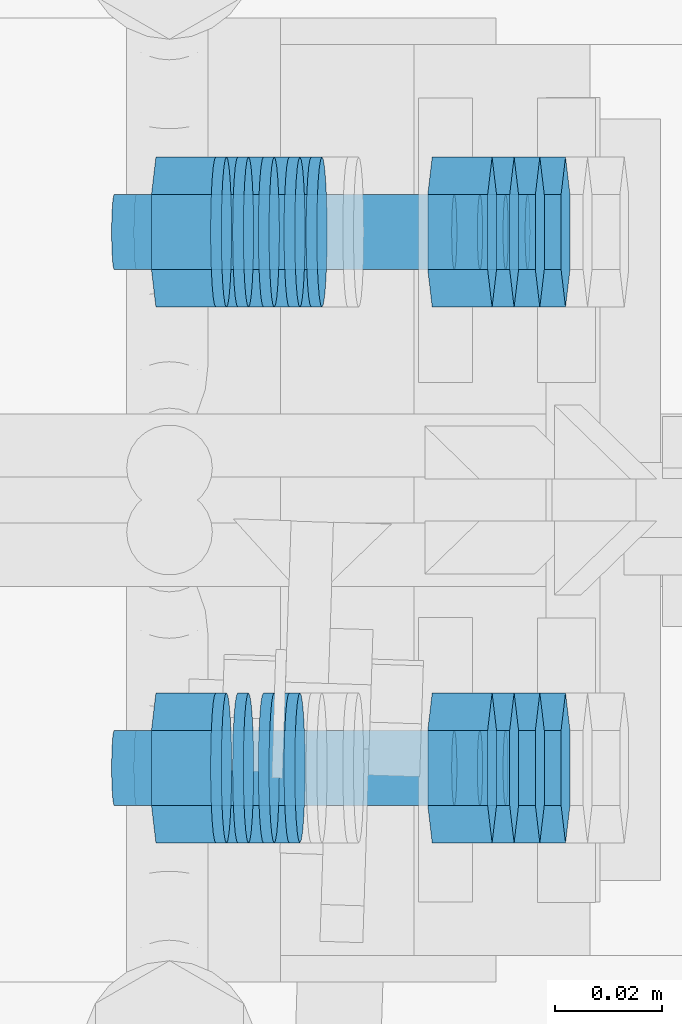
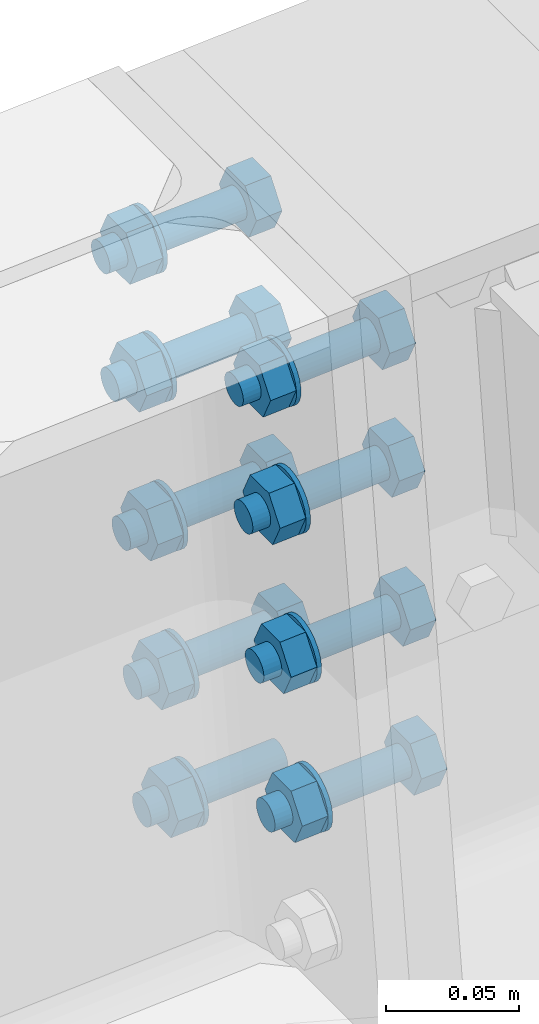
# One storey, part 67 of 72: 35 mechanical fasteners.
"""IFC4 building model written with IfcOpenShell, lengths in metres."""

from ifc_helpers import new_model, si_unit, frame, origin_with_axes, place, context, project, spatial, polyline, outline, extrude, type_object, element, save


model = new_model("IFC4")

# Units and contexts
model_context = context("Model", 3, precision=1e-05, world=origin_with_axes())
ifc_project = project(units=[si_unit("LENGTHUNIT", "METRE"), si_unit("AREAUNIT", "SQUARE_METRE"), si_unit("VOLUMEUNIT", "CUBIC_METRE"), si_unit("MASSUNIT", "GRAM", prefix="KILO"), si_unit("TIMEUNIT", "SECOND"), si_unit("PLANEANGLEUNIT", "RADIAN"), si_unit("SOLIDANGLEUNIT", "STERADIAN"), si_unit("THERMODYNAMICTEMPERATUREUNIT", "DEGREE_CELSIUS")], contexts=[model_context])

# Site, building, storey
placement_1 = place(None, origin_with_axes())
site = spatial("IfcSite", under=ifc_project, at=placement_1, Name="Italia", CompositionType="ELEMENT")
building = spatial("IfcBuilding", under=site, at=placement_1, Name="Pensilina", CompositionType="ELEMENT")
storey = spatial("IfcBuildingStorey", under=building, at=placement_1, Name="Storey 0", CompositionType="ELEMENT", Elevation=0.0)

# Mechanical fasteners
mechanical_fastener_type_1 = type_object("IfcMechanicalFastenerType", Name="Collegamento 0105_0205", PredefinedType="BOLT")
placement_2 = place(placement_1, origin_with_axes())
mechanical_fastener_1_placement = place(placement_2, origin_with_axes())
element("IfcMechanicalFastener", 1, at=mechanical_fastener_1_placement, inside=storey, type_object=mechanical_fastener_type_1, Name="Collegamento 0105_0205", NominalDiameter=0.014, context=model_context, shape_type="SweptSolid", body=[
    extrude(outline(polyline([(0.0, 0.0, 0.0), (-0.000238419, -0.00181174, 0.0), (-0.000938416, -0.00350022, 0.0), (-0.0020504, -0.00494981, 0.0), (-0.00349998, -0.00606227, 0.0), (-0.00518799, -0.00676155, 0.0), (-0.00699997, -0.00699997, 0.0), (-0.00881195, -0.00676155, 0.0), (-0.0105, -0.00606227, 0.0), (-0.0119495, -0.00494981, 0.0), (-0.0130615, -0.00350022, 0.0), (-0.0137615, -0.00181174, 0.0), (-0.0139999, 0.0, 0.0), (-0.0137615, 0.00181174, 0.0), (-0.0130615, 0.00349998, 0.0), (-0.0119495, 0.00494981, 0.0), (-0.0105, 0.00606227, 0.0), (-0.00881195, 0.00676155, 0.0), (-0.00699997, 0.00699997, 0.0), (-0.00518799, 0.00676155, 0.0), (-0.00349998, 0.00606227, 0.0), (-0.0020504, 0.00494981, 0.0), (-0.000938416, 0.00349998, 0.0), (-0.000238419, 0.00181174, 0.0), (0.0, 0.0, 0.0)])), frame((0.863551, 21.177, 3.51536), z_axis=(0.997648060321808, 0.0, 0.068544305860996), x_axis=(0.0, 1.0, 0.0)), (0.0, 0.0, 1.0), 0.0595),
])
mechanical_fastener_type_2 = type_object("IfcMechanicalFastenerType", Name="Collegamento 0105_0205", PredefinedType="BOLT")
mechanical_fastener_2_placement = place(placement_2, origin_with_axes())
element("IfcMechanicalFastener", 2, at=mechanical_fastener_2_placement, inside=storey, type_object=mechanical_fastener_type_2, Name="Collegamento 0105_0205", NominalDiameter=0.0139999, context=model_context, shape_type="SweptSolid", body=[
    extrude(outline(polyline([(0.0, 0.0, 0.0), (-0.0139999, 0.0, 0.0), (-0.0209999, 0.0121245, 0.0), (-0.0139999, 0.0242488, 0.0), (0.0, 0.0242488, 0.0), (0.00699997, 0.0121245, 0.0), (0.0, 0.0, 0.0)])), frame((0.872163, 21.177, 3.5038), z_axis=(0.997648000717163, 0.0, 0.068545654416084), x_axis=(0.0, 1.0, 0.0)), (0.0, 0.0, 1.0), 0.0111999),
])
mechanical_fastener_type_3 = type_object("IfcMechanicalFastenerType", Name="Collegamento 0105_0205", PredefinedType="BOLT")
mechanical_fastener_3_placement = place(placement_2, origin_with_axes())
element("IfcMechanicalFastener", 3, at=mechanical_fastener_3_placement, inside=storey, type_object=mechanical_fastener_type_3, Name="Collegamento 0105_0205", NominalDiameter=0.028, context=model_context, shape_type="SweptSolid", body=[
    extrude(outline(polyline([(0.0, 0.0, 0.0), (-0.000476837, -0.00362349, 0.0), (-0.00187492, -0.00699997, 0.0), (-0.0041008, -0.00989938, 0.0), (-0.00699997, -0.0121243, 0.0), (-0.010376, -0.0135229, 0.0), (-0.0139999, -0.0139999, 0.0), (-0.0176239, -0.0135229, 0.0), (-0.0209999, -0.0121243, 0.0), (-0.0238991, -0.00989938, 0.0), (-0.026125, -0.00699997, 0.0), (-0.027523, -0.00362349, 0.0), (-0.0279999, 0.0, 0.0), (-0.027523, 0.00362349, 0.0), (-0.026125, 0.00699997, 0.0), (-0.0238991, 0.00989962, 0.0), (-0.0209999, 0.0121245, 0.0), (-0.0176239, 0.0135231, 0.0), (-0.0139999, 0.0139999, 0.0), (-0.010376, 0.0135231, 0.0), (-0.00699997, 0.0121245, 0.0), (-0.0041008, 0.00989962, 0.0), (-0.00187492, 0.00699997, 0.0), (-0.000476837, 0.00362349, 0.0), (0.0, 0.0, 0.0)])), frame((0.882506, 21.184, 3.51666), z_axis=(0.997648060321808, 0.0, 0.06854435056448), x_axis=(0.0, 1.0, 0.0)), (0.0, 0.0, 1.0), 0.00200003),
])
mechanical_fastener_type_4 = type_object("IfcMechanicalFastenerType", Name="Collegamento 0105_0205", PredefinedType="BOLT")
mechanical_fastener_4_placement = place(placement_2, origin_with_axes())
element("IfcMechanicalFastener", 4, at=mechanical_fastener_4_placement, inside=storey, type_object=mechanical_fastener_type_4, Name="Collegamento 0105_0205", NominalDiameter=0.0139999, context=model_context, shape_type="SweptSolid", body=[
    extrude(outline(polyline([(0.0, 0.0, 0.0), (-0.0139999, 0.0, 0.0), (-0.0209999, 0.0121243, 0.0), (-0.0139999, 0.0242488, 0.0), (0.0, 0.0242488, 0.0), (0.00699997, 0.0121243, 0.0), (0.0, 0.0, 0.0)])), frame((0.919629, 21.077, 3.5672), z_axis=(0.997649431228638, 0.0, 0.068524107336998), x_axis=(0.0, 1.0, 0.0)), (0.0, 0.0, 1.0), 0.0112),
])
mechanical_fastener_type_5 = type_object("IfcMechanicalFastenerType", Name="Collegamento 0105_0205", PredefinedType="BOLT")
mechanical_fastener_5_placement = place(placement_2, origin_with_axes())
element("IfcMechanicalFastener", 5, at=mechanical_fastener_5_placement, inside=storey, type_object=mechanical_fastener_type_5, Name="Collegamento 0105_0205", NominalDiameter=0.014, context=model_context, shape_type="SweptSolid", body=[
    extrude(outline(polyline([(0.0, 0.0, 0.0), (-0.000238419, -0.00181174, 0.0), (-0.000938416, -0.00349998, 0.0), (-0.0020504, -0.00494981, 0.0), (-0.00349998, -0.00606227, 0.0), (-0.00518799, -0.00676155, 0.0), (-0.00699997, -0.00699997, 0.0), (-0.00881195, -0.00676155, 0.0), (-0.0105, -0.00606227, 0.0), (-0.0119495, -0.00494981, 0.0), (-0.0130615, -0.00349998, 0.0), (-0.0137615, -0.00181174, 0.0), (-0.0139999, 0.0, 0.0), (-0.0137615, 0.00181174, 0.0), (-0.0130615, 0.00350022, 0.0), (-0.0119495, 0.00494981, 0.0), (-0.0105, 0.00606227, 0.0), (-0.00881195, 0.00676155, 0.0), (-0.00699997, 0.00699997, 0.0), (-0.00518799, 0.00676155, 0.0), (-0.00349998, 0.00606227, 0.0), (-0.0020504, 0.00494981, 0.0), (-0.000938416, 0.00350022, 0.0), (-0.000238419, 0.00181174, 0.0), (0.0, 0.0, 0.0)])), frame((0.859438, 21.077, 3.57522), z_axis=(0.997648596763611, 0.0, 0.068536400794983), x_axis=(0.0, 1.0, 0.0)), (0.0, 0.0, 1.0), 0.0594999),
])
mechanical_fastener_type_6 = type_object("IfcMechanicalFastenerType", Name="Collegamento 0105_0205", PredefinedType="BOLT")
mechanical_fastener_6_placement = place(placement_2, origin_with_axes())
element("IfcMechanicalFastener", 6, at=mechanical_fastener_6_placement, inside=storey, type_object=mechanical_fastener_type_6, Name="Collegamento 0105_0205", NominalDiameter=0.0139999, context=model_context, shape_type="SweptSolid", body=[
    extrude(outline(polyline([(0.0, 0.0, 0.0), (-0.0139999, 0.0, 0.0), (-0.0209999, 0.0121243, 0.0), (-0.0139999, 0.0242486, 0.0), (0.0, 0.0242486, 0.0), (0.00699997, 0.0121243, 0.0), (0.0, 0.0, 0.0)])), frame((0.868051, 21.077, 3.56365), z_axis=(0.997648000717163, 0.0, 0.068545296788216), x_axis=(0.0, 1.0, 0.0)), (0.0, 0.0, 1.0), 0.0112),
])
mechanical_fastener_type_7 = type_object("IfcMechanicalFastenerType", Name="Collegamento 0105_0205", PredefinedType="BOLT")
mechanical_fastener_7_placement = place(placement_2, origin_with_axes())
element("IfcMechanicalFastener", 7, at=mechanical_fastener_7_placement, inside=storey, type_object=mechanical_fastener_type_7, Name="Collegamento 0105_0205", NominalDiameter=0.028, context=model_context, shape_type="SweptSolid", body=[
    extrude(outline(polyline([(0.0, 0.0, 0.0), (-0.000476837, -0.00362349, 0.0), (-0.00187492, -0.00699997, 0.0), (-0.0041008, -0.00989962, 0.0), (-0.00699997, -0.0121245, 0.0), (-0.010376, -0.0135229, 0.0), (-0.0139999, -0.0139999, 0.0), (-0.0176239, -0.0135229, 0.0), (-0.0209999, -0.0121245, 0.0), (-0.0238991, -0.00989962, 0.0), (-0.026125, -0.00699997, 0.0), (-0.027523, -0.00362349, 0.0), (-0.0279999, 0.0, 0.0), (-0.027523, 0.00362349, 0.0), (-0.026125, 0.00699997, 0.0), (-0.0238991, 0.00989962, 0.0), (-0.0209999, 0.0121245, 0.0), (-0.0176239, 0.0135229, 0.0), (-0.0139999, 0.0139999, 0.0), (-0.010376, 0.0135229, 0.0), (-0.00699997, 0.0121245, 0.0), (-0.0041008, 0.00989962, 0.0), (-0.00187492, 0.00699997, 0.0), (-0.000476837, 0.00362349, 0.0), (0.0, 0.0, 0.0)])), frame((0.878394, 21.084, 3.57652), z_axis=(0.997648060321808, 0.0, 0.06854435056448), x_axis=(0.0, 1.0, 0.0)), (0.0, 0.0, 1.0), 0.00200003),
])
mechanical_fastener_type_8 = type_object("IfcMechanicalFastenerType", Name="Collegamento 0105_0205", PredefinedType="BOLT")
mechanical_fastener_8_placement = place(placement_2, origin_with_axes())
element("IfcMechanicalFastener", 8, at=mechanical_fastener_8_placement, inside=storey, type_object=mechanical_fastener_type_8, Name="Collegamento 0105_0205", NominalDiameter=0.0139999, context=model_context, shape_type="SweptSolid", body=[
    extrude(outline(polyline([(0.0, 0.0, 0.0), (-0.0139999, 0.0, 0.0), (-0.0209999, 0.0121243, 0.0), (-0.0139999, 0.0242488, 0.0), (0.0, 0.0242488, 0.0), (0.00699997, 0.0121243, 0.0), (0.0, 0.0, 0.0)])), frame((0.919629, 21.177, 3.5672), z_axis=(0.997649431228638, 0.0, 0.068524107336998), x_axis=(0.0, 1.0, 0.0)), (0.0, 0.0, 1.0), 0.0112),
])
mechanical_fastener_type_9 = type_object("IfcMechanicalFastenerType", Name="Collegamento 0105_0205", PredefinedType="BOLT")
mechanical_fastener_9_placement = place(placement_2, origin_with_axes())
element("IfcMechanicalFastener", 9, at=mechanical_fastener_9_placement, inside=storey, type_object=mechanical_fastener_type_9, Name="Collegamento 0105_0205", NominalDiameter=0.014, context=model_context, shape_type="SweptSolid", body=[
    extrude(outline(polyline([(0.0, 0.0, 0.0), (-0.000238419, -0.00181174, 0.0), (-0.000938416, -0.00349998, 0.0), (-0.0020504, -0.00494981, 0.0), (-0.00349998, -0.00606227, 0.0), (-0.00518799, -0.00676155, 0.0), (-0.00699997, -0.00699997, 0.0), (-0.00881195, -0.00676155, 0.0), (-0.0105, -0.00606227, 0.0), (-0.0119495, -0.00494981, 0.0), (-0.0130615, -0.00349998, 0.0), (-0.0137615, -0.00181174, 0.0), (-0.0139999, 0.0, 0.0), (-0.0137615, 0.00181174, 0.0), (-0.0130615, 0.00350022, 0.0), (-0.0119495, 0.00494981, 0.0), (-0.0105, 0.00606227, 0.0), (-0.00881195, 0.00676155, 0.0), (-0.00699997, 0.00699997, 0.0), (-0.00518799, 0.00676155, 0.0), (-0.00349998, 0.00606227, 0.0), (-0.0020504, 0.00494981, 0.0), (-0.000938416, 0.00350022, 0.0), (-0.000238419, 0.00181174, 0.0), (0.0, 0.0, 0.0)])), frame((0.859438, 21.177, 3.57522), z_axis=(0.997648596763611, 0.0, 0.068536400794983), x_axis=(0.0, 1.0, 0.0)), (0.0, 0.0, 1.0), 0.0594999),
])
mechanical_fastener_type_10 = type_object("IfcMechanicalFastenerType", Name="Collegamento 0105_0205", PredefinedType="BOLT")
mechanical_fastener_10_placement = place(placement_2, origin_with_axes())
element("IfcMechanicalFastener", 10, at=mechanical_fastener_10_placement, inside=storey, type_object=mechanical_fastener_type_10, Name="Collegamento 0105_0205", NominalDiameter=0.0139999, context=model_context, shape_type="SweptSolid", body=[
    extrude(outline(polyline([(0.0, 0.0, 0.0), (-0.0139999, 0.0, 0.0), (-0.0209999, 0.0121243, 0.0), (-0.0139999, 0.0242486, 0.0), (0.0, 0.0242486, 0.0), (0.00699997, 0.0121243, 0.0), (0.0, 0.0, 0.0)])), frame((0.868051, 21.177, 3.56365), z_axis=(0.997648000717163, 0.0, 0.068545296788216), x_axis=(0.0, 1.0, 0.0)), (0.0, 0.0, 1.0), 0.0112),
])
mechanical_fastener_type_11 = type_object("IfcMechanicalFastenerType", Name="Collegamento 0105_0205", PredefinedType="BOLT")
mechanical_fastener_11_placement = place(placement_2, origin_with_axes())
element("IfcMechanicalFastener", 11, at=mechanical_fastener_11_placement, inside=storey, type_object=mechanical_fastener_type_11, Name="Collegamento 0105_0205", NominalDiameter=0.028, context=model_context, shape_type="SweptSolid", body=[
    extrude(outline(polyline([(0.0, 0.0, 0.0), (-0.000476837, -0.00362349, 0.0), (-0.00187492, -0.00699997, 0.0), (-0.0041008, -0.00989962, 0.0), (-0.00699997, -0.0121245, 0.0), (-0.010376, -0.0135229, 0.0), (-0.0139999, -0.0139999, 0.0), (-0.0176239, -0.0135229, 0.0), (-0.0209999, -0.0121245, 0.0), (-0.0238991, -0.00989962, 0.0), (-0.026125, -0.00699997, 0.0), (-0.027523, -0.00362349, 0.0), (-0.0279999, 0.0, 0.0), (-0.027523, 0.00362349, 0.0), (-0.026125, 0.00699997, 0.0), (-0.0238991, 0.00989962, 0.0), (-0.0209999, 0.0121245, 0.0), (-0.0176239, 0.0135229, 0.0), (-0.0139999, 0.0139999, 0.0), (-0.010376, 0.0135229, 0.0), (-0.00699997, 0.0121245, 0.0), (-0.0041008, 0.00989962, 0.0), (-0.00187492, 0.00699997, 0.0), (-0.000476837, 0.00362349, 0.0), (0.0, 0.0, 0.0)])), frame((0.878394, 21.184, 3.57652), z_axis=(0.997648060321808, 0.0, 0.06854435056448), x_axis=(0.0, 1.0, 0.0)), (0.0, 0.0, 1.0), 0.00200003),
])
mechanical_fastener_type_12 = type_object("IfcMechanicalFastenerType", Name="Collegamento 0105_0205", PredefinedType="BOLT")
mechanical_fastener_12_placement = place(placement_2, origin_with_axes())
element("IfcMechanicalFastener", 12, at=mechanical_fastener_12_placement, inside=storey, type_object=mechanical_fastener_type_12, Name="Collegamento 0105_0205", NominalDiameter=0.0139999, context=model_context, shape_type="SweptSolid", body=[
    extrude(outline(polyline([(0.0, 0.0, 0.0), (-0.0139999, 0.0, 0.0), (-0.0209999, 0.0121243, 0.0), (-0.0139999, 0.0242488, 0.0), (0.0, 0.0242488, 0.0), (0.00699997, 0.0121243, 0.0), (0.0, 0.0, 0.0)])), frame((0.914832, 21.077, 3.63703), z_axis=(0.997648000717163, 0.0, 0.068545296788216), x_axis=(0.0, 1.0, 0.0)), (0.0, 0.0, 1.0), 0.0112),
])
mechanical_fastener_type_13 = type_object("IfcMechanicalFastenerType", Name="Collegamento 0105_0205", PredefinedType="BOLT")
mechanical_fastener_13_placement = place(placement_2, origin_with_axes())
element("IfcMechanicalFastener", 13, at=mechanical_fastener_13_placement, inside=storey, type_object=mechanical_fastener_type_13, Name="Collegamento 0105_0205", NominalDiameter=0.014, context=model_context, shape_type="SweptSolid", body=[
    extrude(outline(polyline([(0.0, 0.0, 0.0), (-0.000238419, -0.00181174, 0.0), (-0.000938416, -0.00350022, 0.0), (-0.0020504, -0.00494981, 0.0), (-0.00349998, -0.00606227, 0.0), (-0.00518799, -0.00676155, 0.0), (-0.00699997, -0.00699997, 0.0), (-0.00881195, -0.00676155, 0.0), (-0.0105, -0.00606227, 0.0), (-0.0119495, -0.00494981, 0.0), (-0.0130615, -0.00350022, 0.0), (-0.0137615, -0.00181174, 0.0), (-0.0139999, 0.0, 0.0), (-0.0137615, 0.00181174, 0.0), (-0.0130615, 0.00349998, 0.0), (-0.0119495, 0.00494957, 0.0), (-0.0105, 0.00606203, 0.0), (-0.00881195, 0.00676131, 0.0), (-0.00699997, 0.00699997, 0.0), (-0.00518799, 0.00676131, 0.0), (-0.00349998, 0.00606203, 0.0), (-0.0020504, 0.00494957, 0.0), (-0.000938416, 0.00349998, 0.0), (-0.000238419, 0.00181174, 0.0), (0.0, 0.0, 0.0)])), frame((0.85464, 21.077, 3.64505), z_axis=(0.997648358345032, 0.0, 0.068540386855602), x_axis=(0.0, 1.0, 0.0)), (0.0, 0.0, 1.0), 0.0595),
])
mechanical_fastener_type_14 = type_object("IfcMechanicalFastenerType", Name="Collegamento 0105_0205", PredefinedType="BOLT")
mechanical_fastener_14_placement = place(placement_2, origin_with_axes())
element("IfcMechanicalFastener", 14, at=mechanical_fastener_14_placement, inside=storey, type_object=mechanical_fastener_type_14, Name="Collegamento 0105_0205", NominalDiameter=0.0139999, context=model_context, shape_type="SweptSolid", body=[
    extrude(outline(polyline([(0.0, 0.0, 0.0), (-0.0139999, 0.0, 0.0), (-0.0209999, 0.0121243, 0.0), (-0.0139999, 0.0242486, 0.0), (0.0, 0.0242486, 0.0), (0.00699997, 0.0121243, 0.0), (0.0, 0.0, 0.0)])), frame((0.863253, 21.077, 3.63349), z_axis=(0.997649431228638, 0.0, 0.068524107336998), x_axis=(0.0, 1.0, 0.0)), (0.0, 0.0, 1.0), 0.0112),
])
mechanical_fastener_type_15 = type_object("IfcMechanicalFastenerType", Name="Collegamento 0105_0205", PredefinedType="BOLT")
mechanical_fastener_15_placement = place(placement_2, origin_with_axes())
element("IfcMechanicalFastener", 15, at=mechanical_fastener_15_placement, inside=storey, type_object=mechanical_fastener_type_15, Name="Collegamento 0105_0205", NominalDiameter=0.028, context=model_context, shape_type="SweptSolid", body=[
    extrude(outline(polyline([(0.0, 0.0, 0.0), (-0.000476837, -0.00362349, 0.0), (-0.00187492, -0.00699997, 0.0), (-0.0041008, -0.00989938, 0.0), (-0.00699997, -0.0121243, 0.0), (-0.010376, -0.0135229, 0.0), (-0.0139999, -0.0139999, 0.0), (-0.0176239, -0.0135229, 0.0), (-0.0209999, -0.0121243, 0.0), (-0.0238991, -0.00989938, 0.0), (-0.026125, -0.00699997, 0.0), (-0.027523, -0.00362349, 0.0), (-0.0279999, 0.0, 0.0), (-0.027523, 0.00362349, 0.0), (-0.026125, 0.00699997, 0.0), (-0.0238991, 0.00989962, 0.0), (-0.0209999, 0.0121245, 0.0), (-0.0176239, 0.0135231, 0.0), (-0.0139999, 0.0139999, 0.0), (-0.010376, 0.0135231, 0.0), (-0.00699997, 0.0121245, 0.0), (-0.0041008, 0.00989962, 0.0), (-0.00187492, 0.00699997, 0.0), (-0.000476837, 0.00362349, 0.0), (0.0, 0.0, 0.0)])), frame((0.873596, 21.084, 3.64635), z_axis=(0.997647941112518, 0.0, 0.068546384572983), x_axis=(0.0, 1.0, 0.0)), (0.0, 0.0, 1.0), 0.00199997),
])
mechanical_fastener_type_16 = type_object("IfcMechanicalFastenerType", Name="Collegamento 0105_0205", PredefinedType="BOLT")
mechanical_fastener_16_placement = place(placement_2, origin_with_axes())
element("IfcMechanicalFastener", 16, at=mechanical_fastener_16_placement, inside=storey, type_object=mechanical_fastener_type_16, Name="Collegamento 0105_0205", NominalDiameter=0.0139999, context=model_context, shape_type="SweptSolid", body=[
    extrude(outline(polyline([(0.0, 0.0, 0.0), (-0.0139999, 0.0, 0.0), (-0.0209999, 0.0121243, 0.0), (-0.0139999, 0.0242488, 0.0), (0.0, 0.0242488, 0.0), (0.00699997, 0.0121243, 0.0), (0.0, 0.0, 0.0)])), frame((0.914832, 21.177, 3.63703), z_axis=(0.997648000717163, 0.0, 0.068545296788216), x_axis=(0.0, 1.0, 0.0)), (0.0, 0.0, 1.0), 0.0112),
])
mechanical_fastener_type_17 = type_object("IfcMechanicalFastenerType", Name="Collegamento 0105_0205", PredefinedType="BOLT")
mechanical_fastener_17_placement = place(placement_2, origin_with_axes())
element("IfcMechanicalFastener", 17, at=mechanical_fastener_17_placement, inside=storey, type_object=mechanical_fastener_type_17, Name="Collegamento 0105_0205", NominalDiameter=0.014, context=model_context, shape_type="SweptSolid", body=[
    extrude(outline(polyline([(0.0, 0.0, 0.0), (-0.000238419, -0.00181174, 0.0), (-0.000938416, -0.00350022, 0.0), (-0.0020504, -0.00494981, 0.0), (-0.00349998, -0.00606227, 0.0), (-0.00518799, -0.00676155, 0.0), (-0.00699997, -0.00699997, 0.0), (-0.00881195, -0.00676155, 0.0), (-0.0105, -0.00606227, 0.0), (-0.0119495, -0.00494981, 0.0), (-0.0130615, -0.00350022, 0.0), (-0.0137615, -0.00181174, 0.0), (-0.0139999, 0.0, 0.0), (-0.0137615, 0.00181174, 0.0), (-0.0130615, 0.00349998, 0.0), (-0.0119495, 0.00494957, 0.0), (-0.0105, 0.00606203, 0.0), (-0.00881195, 0.00676131, 0.0), (-0.00699997, 0.00699997, 0.0), (-0.00518799, 0.00676131, 0.0), (-0.00349998, 0.00606203, 0.0), (-0.0020504, 0.00494957, 0.0), (-0.000938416, 0.00349998, 0.0), (-0.000238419, 0.00181174, 0.0), (0.0, 0.0, 0.0)])), frame((0.85464, 21.177, 3.64505), z_axis=(0.997648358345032, 0.0, 0.068540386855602), x_axis=(0.0, 1.0, 0.0)), (0.0, 0.0, 1.0), 0.0595),
])
mechanical_fastener_type_18 = type_object("IfcMechanicalFastenerType", Name="Collegamento 0105_0205", PredefinedType="BOLT")
mechanical_fastener_18_placement = place(placement_2, origin_with_axes())
element("IfcMechanicalFastener", 18, at=mechanical_fastener_18_placement, inside=storey, type_object=mechanical_fastener_type_18, Name="Collegamento 0105_0205", NominalDiameter=0.0139999, context=model_context, shape_type="SweptSolid", body=[
    extrude(outline(polyline([(0.0, 0.0, 0.0), (-0.0139999, 0.0, 0.0), (-0.0209999, 0.0121243, 0.0), (-0.0139999, 0.0242486, 0.0), (0.0, 0.0242486, 0.0), (0.00699997, 0.0121243, 0.0), (0.0, 0.0, 0.0)])), frame((0.863253, 21.177, 3.63349), z_axis=(0.997649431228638, 0.0, 0.068524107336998), x_axis=(0.0, 1.0, 0.0)), (0.0, 0.0, 1.0), 0.0112),
])
mechanical_fastener_type_19 = type_object("IfcMechanicalFastenerType", Name="Collegamento 0105_0205", PredefinedType="BOLT")
mechanical_fastener_19_placement = place(placement_2, origin_with_axes())
element("IfcMechanicalFastener", 19, at=mechanical_fastener_19_placement, inside=storey, type_object=mechanical_fastener_type_19, Name="Collegamento 0105_0205", NominalDiameter=0.028, context=model_context, shape_type="SweptSolid", body=[
    extrude(outline(polyline([(0.0, 0.0, 0.0), (-0.000476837, -0.00362349, 0.0), (-0.00187492, -0.00699997, 0.0), (-0.0041008, -0.00989938, 0.0), (-0.00699997, -0.0121243, 0.0), (-0.010376, -0.0135229, 0.0), (-0.0139999, -0.0139999, 0.0), (-0.0176239, -0.0135229, 0.0), (-0.0209999, -0.0121243, 0.0), (-0.0238991, -0.00989938, 0.0), (-0.026125, -0.00699997, 0.0), (-0.027523, -0.00362349, 0.0), (-0.0279999, 0.0, 0.0), (-0.027523, 0.00362349, 0.0), (-0.026125, 0.00699997, 0.0), (-0.0238991, 0.00989962, 0.0), (-0.0209999, 0.0121245, 0.0), (-0.0176239, 0.0135231, 0.0), (-0.0139999, 0.0139999, 0.0), (-0.010376, 0.0135231, 0.0), (-0.00699997, 0.0121245, 0.0), (-0.0041008, 0.00989962, 0.0), (-0.00187492, 0.00699997, 0.0), (-0.000476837, 0.00362349, 0.0), (0.0, 0.0, 0.0)])), frame((0.873596, 21.184, 3.64635), z_axis=(0.997647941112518, 0.0, 0.068546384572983), x_axis=(0.0, 1.0, 0.0)), (0.0, 0.0, 1.0), 0.00199997),
])
mechanical_fastener_type_20 = type_object("IfcMechanicalFastenerType", Name="Collegamento 0105_0205", PredefinedType="BOLT")
mechanical_fastener_20_placement = place(placement_2, origin_with_axes())
element("IfcMechanicalFastener", 20, at=mechanical_fastener_20_placement, inside=storey, type_object=mechanical_fastener_type_20, Name="Collegamento 0105_0205", NominalDiameter=0.0139999, context=model_context, shape_type="SweptSolid", body=[
    extrude(outline(polyline([(0.0, 0.0, 0.0), (-0.0139999, 0.0, 0.0), (-0.0209999, 0.0121245, 0.0), (-0.0139999, 0.0242486, 0.0), (0.0, 0.0242486, 0.0), (0.00699997, 0.0121245, 0.0), (0.0, 0.0, 0.0)])), frame((0.910034, 21.077, 3.70687), z_axis=(0.997648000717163, 0.0, 0.068545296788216), x_axis=(0.0, 1.0, 0.0)), (0.0, 0.0, 1.0), 0.0112),
])
mechanical_fastener_type_21 = type_object("IfcMechanicalFastenerType", Name="Collegamento 0105_0205", PredefinedType="BOLT")
mechanical_fastener_21_placement = place(placement_2, origin_with_axes())
element("IfcMechanicalFastener", 21, at=mechanical_fastener_21_placement, inside=storey, type_object=mechanical_fastener_type_21, Name="Collegamento 0105_0205", NominalDiameter=0.014, context=model_context, shape_type="SweptSolid", body=[
    extrude(outline(polyline([(0.0, 0.0, 0.0), (-0.000238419, -0.00181174, 0.0), (-0.000938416, -0.00350022, 0.0), (-0.0020504, -0.00494981, 0.0), (-0.00349998, -0.00606227, 0.0), (-0.00518799, -0.00676155, 0.0), (-0.00699997, -0.00699997, 0.0), (-0.00881195, -0.00676155, 0.0), (-0.0105, -0.00606227, 0.0), (-0.0119495, -0.00494981, 0.0), (-0.0130615, -0.00350022, 0.0), (-0.0137615, -0.00181174, 0.0), (-0.0139999, 0.0, 0.0), (-0.0137615, 0.00181174, 0.0), (-0.0130615, 0.00349998, 0.0), (-0.0119495, 0.00494981, 0.0), (-0.0105, 0.00606227, 0.0), (-0.00881195, 0.00676131, 0.0), (-0.00699997, 0.00699997, 0.0), (-0.00518799, 0.00676131, 0.0), (-0.00349998, 0.00606227, 0.0), (-0.0020504, 0.00494981, 0.0), (-0.000938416, 0.00349998, 0.0), (-0.000238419, 0.00181174, 0.0), (0.0, 0.0, 0.0)])), frame((0.849843, 21.077, 3.71489), z_axis=(0.997648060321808, 0.0, 0.068544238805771), x_axis=(0.0, 1.0, 0.0)), (0.0, 0.0, 1.0), 0.0595001),
])
mechanical_fastener_type_22 = type_object("IfcMechanicalFastenerType", Name="Collegamento 0105_0205", PredefinedType="BOLT")
mechanical_fastener_22_placement = place(placement_2, origin_with_axes())
element("IfcMechanicalFastener", 22, at=mechanical_fastener_22_placement, inside=storey, type_object=mechanical_fastener_type_22, Name="Collegamento 0105_0205", NominalDiameter=0.0139999, context=model_context, shape_type="SweptSolid", body=[
    extrude(outline(polyline([(0.0, 0.0, 0.0), (-0.0139999, 0.0, 0.0), (-0.0209999, 0.0121245, 0.0), (-0.0139999, 0.0242488, 0.0), (0.0, 0.0242488, 0.0), (0.00699997, 0.0121245, 0.0), (0.0, 0.0, 0.0)])), frame((0.858455, 21.077, 3.70333), z_axis=(0.997648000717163, 0.0, 0.068545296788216), x_axis=(0.0, 1.0, 0.0)), (0.0, 0.0, 1.0), 0.0112),
])
mechanical_fastener_type_23 = type_object("IfcMechanicalFastenerType", Name="Collegamento 0105_0205", PredefinedType="BOLT")
mechanical_fastener_23_placement = place(placement_2, origin_with_axes())
element("IfcMechanicalFastener", 23, at=mechanical_fastener_23_placement, inside=storey, type_object=mechanical_fastener_type_23, Name="Collegamento 0105_0205", NominalDiameter=0.028, context=model_context, shape_type="SweptSolid", body=[
    extrude(outline(polyline([(0.0, 0.0, 0.0), (-0.000476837, -0.00362349, 0.0), (-0.00187492, -0.00699997, 0.0), (-0.0041008, -0.00989962, 0.0), (-0.00699997, -0.0121245, 0.0), (-0.010376, -0.0135229, 0.0), (-0.0139999, -0.0139999, 0.0), (-0.0176239, -0.0135229, 0.0), (-0.0209999, -0.0121245, 0.0), (-0.0238991, -0.00989962, 0.0), (-0.026125, -0.00699997, 0.0), (-0.027523, -0.00362349, 0.0), (-0.0279999, 0.0, 0.0), (-0.027523, 0.00362349, 0.0), (-0.026125, 0.00699997, 0.0), (-0.0238991, 0.00989962, 0.0), (-0.0209999, 0.0121245, 0.0), (-0.0176239, 0.0135229, 0.0), (-0.0139999, 0.0139999, 0.0), (-0.010376, 0.0135229, 0.0), (-0.00699997, 0.0121245, 0.0), (-0.0041008, 0.00989962, 0.0), (-0.00187492, 0.00699997, 0.0), (-0.000476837, 0.00362349, 0.0), (0.0, 0.0, 0.0)])), frame((0.868798, 21.084, 3.71619), z_axis=(0.997648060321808, 0.0, 0.06854435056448), x_axis=(0.0, 1.0, 0.0)), (0.0, 0.0, 1.0), 0.00200003),
])
mechanical_fastener_type_24 = type_object("IfcMechanicalFastenerType", Name="Collegamento 0105_0205", PredefinedType="BOLT")
mechanical_fastener_24_placement = place(placement_2, origin_with_axes())
element("IfcMechanicalFastener", 24, at=mechanical_fastener_24_placement, inside=storey, type_object=mechanical_fastener_type_24, Name="Collegamento 0105_0205", NominalDiameter=0.0139999, context=model_context, shape_type="SweptSolid", body=[
    extrude(outline(polyline([(0.0, 0.0, 0.0), (-0.0139999, 0.0, 0.0), (-0.0209999, 0.0121245, 0.0), (-0.0139999, 0.0242486, 0.0), (0.0, 0.0242486, 0.0), (0.00699997, 0.0121245, 0.0), (0.0, 0.0, 0.0)])), frame((0.910034, 21.177, 3.70687), z_axis=(0.997648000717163, 0.0, 0.068545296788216), x_axis=(0.0, 1.0, 0.0)), (0.0, 0.0, 1.0), 0.0112),
])
mechanical_fastener_type_25 = type_object("IfcMechanicalFastenerType", Name="Collegamento 0105_0205", PredefinedType="BOLT")
mechanical_fastener_25_placement = place(placement_2, origin_with_axes())
element("IfcMechanicalFastener", 25, at=mechanical_fastener_25_placement, inside=storey, type_object=mechanical_fastener_type_25, Name="Collegamento 0105_0205", NominalDiameter=0.014, context=model_context, shape_type="SweptSolid", body=[
    extrude(outline(polyline([(0.0, 0.0, 0.0), (-0.000238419, -0.00181174, 0.0), (-0.000938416, -0.00350022, 0.0), (-0.0020504, -0.00494981, 0.0), (-0.00349998, -0.00606227, 0.0), (-0.00518799, -0.00676155, 0.0), (-0.00699997, -0.00699997, 0.0), (-0.00881195, -0.00676155, 0.0), (-0.0105, -0.00606227, 0.0), (-0.0119495, -0.00494981, 0.0), (-0.0130615, -0.00350022, 0.0), (-0.0137615, -0.00181174, 0.0), (-0.0139999, 0.0, 0.0), (-0.0137615, 0.00181174, 0.0), (-0.0130615, 0.00349998, 0.0), (-0.0119495, 0.00494981, 0.0), (-0.0105, 0.00606227, 0.0), (-0.00881195, 0.00676131, 0.0), (-0.00699997, 0.00699997, 0.0), (-0.00518799, 0.00676131, 0.0), (-0.00349998, 0.00606227, 0.0), (-0.0020504, 0.00494981, 0.0), (-0.000938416, 0.00349998, 0.0), (-0.000238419, 0.00181174, 0.0), (0.0, 0.0, 0.0)])), frame((0.849843, 21.177, 3.71489), z_axis=(0.997648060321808, 0.0, 0.068544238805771), x_axis=(0.0, 1.0, 0.0)), (0.0, 0.0, 1.0), 0.0595001),
])
mechanical_fastener_type_26 = type_object("IfcMechanicalFastenerType", Name="Collegamento 0105_0205", PredefinedType="BOLT")
mechanical_fastener_26_placement = place(placement_2, origin_with_axes())
element("IfcMechanicalFastener", 26, at=mechanical_fastener_26_placement, inside=storey, type_object=mechanical_fastener_type_26, Name="Collegamento 0105_0205", NominalDiameter=0.0139999, context=model_context, shape_type="SweptSolid", body=[
    extrude(outline(polyline([(0.0, 0.0, 0.0), (-0.0139999, 0.0, 0.0), (-0.0209999, 0.0121245, 0.0), (-0.0139999, 0.0242488, 0.0), (0.0, 0.0242488, 0.0), (0.00699997, 0.0121245, 0.0), (0.0, 0.0, 0.0)])), frame((0.858455, 21.177, 3.70333), z_axis=(0.997648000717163, 0.0, 0.068545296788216), x_axis=(0.0, 1.0, 0.0)), (0.0, 0.0, 1.0), 0.0112),
])
mechanical_fastener_type_27 = type_object("IfcMechanicalFastenerType", Name="Collegamento 0105_0205", PredefinedType="BOLT")
mechanical_fastener_27_placement = place(placement_2, origin_with_axes())
element("IfcMechanicalFastener", 27, at=mechanical_fastener_27_placement, inside=storey, type_object=mechanical_fastener_type_27, Name="Collegamento 0105_0205", NominalDiameter=0.028, context=model_context, shape_type="SweptSolid", body=[
    extrude(outline(polyline([(0.0, 0.0, 0.0), (-0.000476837, -0.00362349, 0.0), (-0.00187492, -0.00699997, 0.0), (-0.0041008, -0.00989962, 0.0), (-0.00699997, -0.0121245, 0.0), (-0.010376, -0.0135229, 0.0), (-0.0139999, -0.0139999, 0.0), (-0.0176239, -0.0135229, 0.0), (-0.0209999, -0.0121245, 0.0), (-0.0238991, -0.00989962, 0.0), (-0.026125, -0.00699997, 0.0), (-0.027523, -0.00362349, 0.0), (-0.0279999, 0.0, 0.0), (-0.027523, 0.00362349, 0.0), (-0.026125, 0.00699997, 0.0), (-0.0238991, 0.00989962, 0.0), (-0.0209999, 0.0121245, 0.0), (-0.0176239, 0.0135229, 0.0), (-0.0139999, 0.0139999, 0.0), (-0.010376, 0.0135229, 0.0), (-0.00699997, 0.0121245, 0.0), (-0.0041008, 0.00989962, 0.0), (-0.00187492, 0.00699997, 0.0), (-0.000476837, 0.00362349, 0.0), (0.0, 0.0, 0.0)])), frame((0.868798, 21.184, 3.71619), z_axis=(0.997648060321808, 0.0, 0.06854435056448), x_axis=(0.0, 1.0, 0.0)), (0.0, 0.0, 1.0), 0.00200003),
])
mechanical_fastener_type_28 = type_object("IfcMechanicalFastenerType", Name="Collegamento 0105_0205", PredefinedType="BOLT")
mechanical_fastener_28_placement = place(placement_2, origin_with_axes())
element("IfcMechanicalFastener", 28, at=mechanical_fastener_28_placement, inside=storey, type_object=mechanical_fastener_type_28, Name="Collegamento 0105_0205", NominalDiameter=0.0139999, context=model_context, shape_type="SweptSolid", body=[
    extrude(outline(polyline([(0.0, 0.0, 0.0), (-0.0139999, 0.0, 0.0), (-0.0209999, 0.0121243, 0.0), (-0.0139999, 0.0242486, 0.0), (0.0, 0.0242486, 0.0), (0.00699997, 0.0121243, 0.0), (0.0, 0.0, 0.0)])), frame((0.905921, 21.077, 3.76673), z_axis=(0.997649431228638, 0.0, 0.068524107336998), x_axis=(0.0, 1.0, 0.0)), (0.0, 0.0, 1.0), 0.0112),
])
mechanical_fastener_type_29 = type_object("IfcMechanicalFastenerType", Name="Collegamento 0105_0205", PredefinedType="BOLT")
mechanical_fastener_29_placement = place(placement_2, origin_with_axes())
element("IfcMechanicalFastener", 29, at=mechanical_fastener_29_placement, inside=storey, type_object=mechanical_fastener_type_29, Name="Collegamento 0105_0205", NominalDiameter=0.014, context=model_context, shape_type="SweptSolid", body=[
    extrude(outline(polyline([(0.0, 0.0, 0.0), (-0.000238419, -0.00181174, 0.0), (-0.000938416, -0.00350022, 0.0), (-0.0020504, -0.00494981, 0.0), (-0.00349998, -0.00606227, 0.0), (-0.00518799, -0.00676155, 0.0), (-0.00699997, -0.00699997, 0.0), (-0.00881195, -0.00676155, 0.0), (-0.0105, -0.00606227, 0.0), (-0.0119495, -0.00494981, 0.0), (-0.0130615, -0.00350022, 0.0), (-0.0137615, -0.00181174, 0.0), (-0.0139999, 0.0, 0.0), (-0.0137615, 0.00181174, 0.0), (-0.0130615, 0.00349998, 0.0), (-0.0119495, 0.00494981, 0.0), (-0.0105, 0.00606227, 0.0), (-0.00881195, 0.00676155, 0.0), (-0.00699997, 0.00699997, 0.0), (-0.00518799, 0.00676155, 0.0), (-0.00349998, 0.00606227, 0.0), (-0.0020504, 0.00494981, 0.0), (-0.000938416, 0.00349998, 0.0), (-0.000238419, 0.00181174, 0.0), (0.0, 0.0, 0.0)])), frame((0.84573, 21.077, 3.77475), z_axis=(0.997648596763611, 0.0, 0.068536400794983), x_axis=(0.0, 1.0, 0.0)), (0.0, 0.0, 1.0), 0.0594999),
])
mechanical_fastener_type_30 = type_object("IfcMechanicalFastenerType", Name="Collegamento 0105_0205", PredefinedType="BOLT")
mechanical_fastener_30_placement = place(placement_2, origin_with_axes())
element("IfcMechanicalFastener", 30, at=mechanical_fastener_30_placement, inside=storey, type_object=mechanical_fastener_type_30, Name="Collegamento 0105_0205", NominalDiameter=0.0139999, context=model_context, shape_type="SweptSolid", body=[
    extrude(outline(polyline([(0.0, 0.0, 0.0), (-0.0139999, 0.0, 0.0), (-0.0209999, 0.0121241, 0.0), (-0.0139999, 0.0242486, 0.0), (0.0, 0.0242486, 0.0), (0.00699997, 0.0121241, 0.0), (0.0, 0.0, 0.0)])), frame((0.854343, 21.077, 3.76318), z_axis=(0.997648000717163, 0.0, 0.068545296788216), x_axis=(0.0, 1.0, 0.0)), (0.0, 0.0, 1.0), 0.0112),
])
mechanical_fastener_type_31 = type_object("IfcMechanicalFastenerType", Name="Collegamento 0105_0205", PredefinedType="BOLT")
mechanical_fastener_31_placement = place(placement_2, origin_with_axes())
element("IfcMechanicalFastener", 31, at=mechanical_fastener_31_placement, inside=storey, type_object=mechanical_fastener_type_31, Name="Collegamento 0105_0205", NominalDiameter=0.028, context=model_context, shape_type="SweptSolid", body=[
    extrude(outline(polyline([(0.0, 0.0, 0.0), (-0.000476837, -0.00362325, 0.0), (-0.00187492, -0.00699997, 0.0), (-0.0041008, -0.00989938, 0.0), (-0.00699997, -0.0121243, 0.0), (-0.010376, -0.0135229, 0.0), (-0.0139999, -0.0139999, 0.0), (-0.0176239, -0.0135229, 0.0), (-0.0209999, -0.0121243, 0.0), (-0.0238991, -0.00989938, 0.0), (-0.026125, -0.00699997, 0.0), (-0.027523, -0.00362325, 0.0), (-0.0279999, 0.0, 0.0), (-0.027523, 0.00362349, 0.0), (-0.026125, 0.00700021, 0.0), (-0.0238991, 0.00989962, 0.0), (-0.0209999, 0.0121245, 0.0), (-0.0176239, 0.0135231, 0.0), (-0.0139999, 0.0140002, 0.0), (-0.010376, 0.0135231, 0.0), (-0.00699997, 0.0121245, 0.0), (-0.0041008, 0.00989962, 0.0), (-0.00187492, 0.00700021, 0.0), (-0.000476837, 0.00362349, 0.0), (0.0, 0.0, 0.0)])), frame((0.864685, 21.084, 3.77605), z_axis=(0.997647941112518, 0.0, 0.068546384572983), x_axis=(0.0, 1.0, 0.0)), (0.0, 0.0, 1.0), 0.00199997),
])
mechanical_fastener_type_32 = type_object("IfcMechanicalFastenerType", Name="Collegamento 0105_0205", PredefinedType="BOLT")
mechanical_fastener_32_placement = place(placement_2, origin_with_axes())
element("IfcMechanicalFastener", 32, at=mechanical_fastener_32_placement, inside=storey, type_object=mechanical_fastener_type_32, Name="Collegamento 0105_0205", NominalDiameter=0.0139999, context=model_context, shape_type="SweptSolid", body=[
    extrude(outline(polyline([(0.0, 0.0, 0.0), (-0.0139999, 0.0, 0.0), (-0.0209999, 0.0121243, 0.0), (-0.0139999, 0.0242486, 0.0), (0.0, 0.0242486, 0.0), (0.00699997, 0.0121243, 0.0), (0.0, 0.0, 0.0)])), frame((0.905921, 21.177, 3.76673), z_axis=(0.997649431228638, 0.0, 0.068524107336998), x_axis=(0.0, 1.0, 0.0)), (0.0, 0.0, 1.0), 0.0112),
])
mechanical_fastener_type_33 = type_object("IfcMechanicalFastenerType", Name="Collegamento 0105_0205", PredefinedType="BOLT")
mechanical_fastener_33_placement = place(placement_2, origin_with_axes())
element("IfcMechanicalFastener", 33, at=mechanical_fastener_33_placement, inside=storey, type_object=mechanical_fastener_type_33, Name="Collegamento 0105_0205", NominalDiameter=0.014, context=model_context, shape_type="SweptSolid", body=[
    extrude(outline(polyline([(0.0, 0.0, 0.0), (-0.000238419, -0.00181174, 0.0), (-0.000938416, -0.00350022, 0.0), (-0.0020504, -0.00494981, 0.0), (-0.00349998, -0.00606227, 0.0), (-0.00518799, -0.00676155, 0.0), (-0.00699997, -0.00699997, 0.0), (-0.00881195, -0.00676155, 0.0), (-0.0105, -0.00606227, 0.0), (-0.0119495, -0.00494981, 0.0), (-0.0130615, -0.00350022, 0.0), (-0.0137615, -0.00181174, 0.0), (-0.0139999, 0.0, 0.0), (-0.0137615, 0.00181174, 0.0), (-0.0130615, 0.00349998, 0.0), (-0.0119495, 0.00494981, 0.0), (-0.0105, 0.00606227, 0.0), (-0.00881195, 0.00676155, 0.0), (-0.00699997, 0.00699997, 0.0), (-0.00518799, 0.00676155, 0.0), (-0.00349998, 0.00606227, 0.0), (-0.0020504, 0.00494981, 0.0), (-0.000938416, 0.00349998, 0.0), (-0.000238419, 0.00181174, 0.0), (0.0, 0.0, 0.0)])), frame((0.84573, 21.177, 3.77475), z_axis=(0.997648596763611, 0.0, 0.068536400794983), x_axis=(0.0, 1.0, 0.0)), (0.0, 0.0, 1.0), 0.0594999),
])
mechanical_fastener_type_34 = type_object("IfcMechanicalFastenerType", Name="Collegamento 0105_0205", PredefinedType="BOLT")
mechanical_fastener_34_placement = place(placement_2, origin_with_axes())
element("IfcMechanicalFastener", 34, at=mechanical_fastener_34_placement, inside=storey, type_object=mechanical_fastener_type_34, Name="Collegamento 0105_0205", NominalDiameter=0.0139999, context=model_context, shape_type="SweptSolid", body=[
    extrude(outline(polyline([(0.0, 0.0, 0.0), (-0.0139999, 0.0, 0.0), (-0.0209999, 0.0121241, 0.0), (-0.0139999, 0.0242486, 0.0), (0.0, 0.0242486, 0.0), (0.00699997, 0.0121241, 0.0), (0.0, 0.0, 0.0)])), frame((0.854343, 21.177, 3.76318), z_axis=(0.997648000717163, 0.0, 0.068545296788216), x_axis=(0.0, 1.0, 0.0)), (0.0, 0.0, 1.0), 0.0112),
])
mechanical_fastener_type_35 = type_object("IfcMechanicalFastenerType", Name="Collegamento 0105_0205", PredefinedType="BOLT")
mechanical_fastener_35_placement = place(placement_2, origin_with_axes())
element("IfcMechanicalFastener", 35, at=mechanical_fastener_35_placement, inside=storey, type_object=mechanical_fastener_type_35, Name="Collegamento 0105_0205", NominalDiameter=0.028, context=model_context, shape_type="SweptSolid", body=[
    extrude(outline(polyline([(0.0, 0.0, 0.0), (-0.000476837, -0.00362325, 0.0), (-0.00187492, -0.00699997, 0.0), (-0.0041008, -0.00989938, 0.0), (-0.00699997, -0.0121243, 0.0), (-0.010376, -0.0135229, 0.0), (-0.0139999, -0.0139999, 0.0), (-0.0176239, -0.0135229, 0.0), (-0.0209999, -0.0121243, 0.0), (-0.0238991, -0.00989938, 0.0), (-0.026125, -0.00699997, 0.0), (-0.027523, -0.00362325, 0.0), (-0.0279999, 0.0, 0.0), (-0.027523, 0.00362349, 0.0), (-0.026125, 0.00700021, 0.0), (-0.0238991, 0.00989962, 0.0), (-0.0209999, 0.0121245, 0.0), (-0.0176239, 0.0135231, 0.0), (-0.0139999, 0.0140002, 0.0), (-0.010376, 0.0135231, 0.0), (-0.00699997, 0.0121245, 0.0), (-0.0041008, 0.00989962, 0.0), (-0.00187492, 0.00700021, 0.0), (-0.000476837, 0.00362349, 0.0), (0.0, 0.0, 0.0)])), frame((0.864685, 21.184, 3.77605), z_axis=(0.997647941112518, 0.0, 0.068546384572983), x_axis=(0.0, 1.0, 0.0)), (0.0, 0.0, 1.0), 0.00199997),
])

save(model, "model.ifc")
